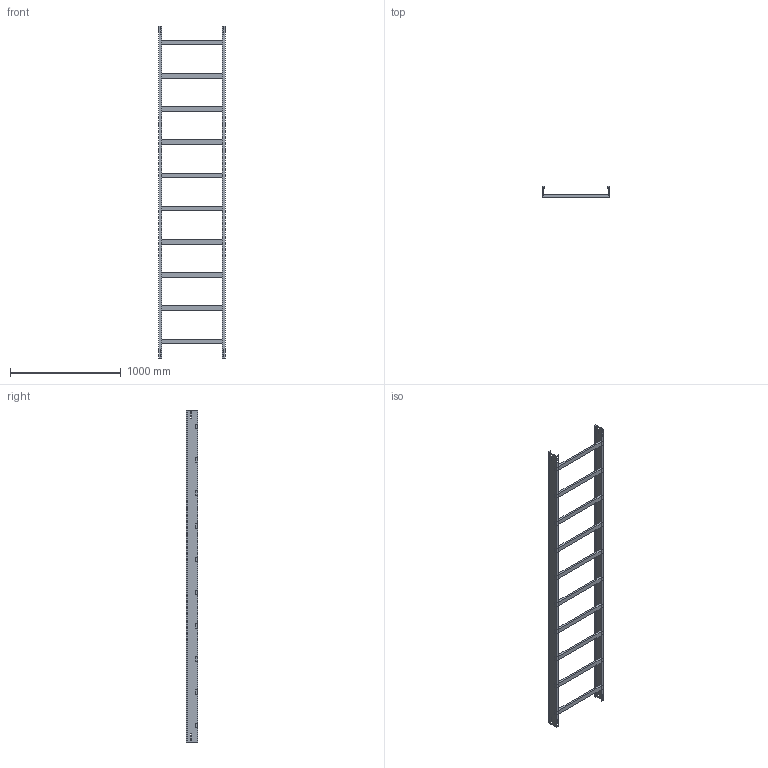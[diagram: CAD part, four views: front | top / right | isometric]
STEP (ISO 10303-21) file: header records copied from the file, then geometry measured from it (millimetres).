
FILE_DESCRIPTION (( 'STEP AP214' ), '1' );
FILE_NAME ('01B3D600.step', '2025-02-21T15:59:50', ( '' ), ( '' ), 'SwSTEP 2.0', 'SolidWorks 2023', '' );
FILE_SCHEMA (( 'AUTOMOTIVE_DESIGN' ));
Length unit declared in the file: millimetre
Products named in the file (3): 01B3D600; TRAVERSINO_600; LONGH.H100
Assembly tree (12 placements, depth 2):
  01B3D600
    LONGH.H100  x2
    TRAVERSINO_600  x10
Bounding box: 600 x 100 x 3000 mm (x, y, z)
Volume: 7474672 mm3; surface area: 2452056 mm2
Topology: 12 solids, 12 shells, 144 faces, 360 edges, 240 vertices
Faces by surface type: plane 144
Entity records: 1696 total; most frequent: CARTESIAN_POINT 283, ORIENTED_EDGE 264, DIRECTION 258, LINE 132, VECTOR 132, EDGE_CURVE 132, VERTEX_POINT 88, EDGE_LOOP 64
